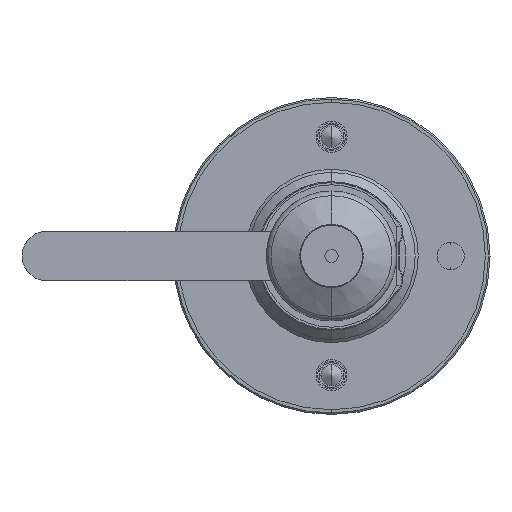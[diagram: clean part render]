
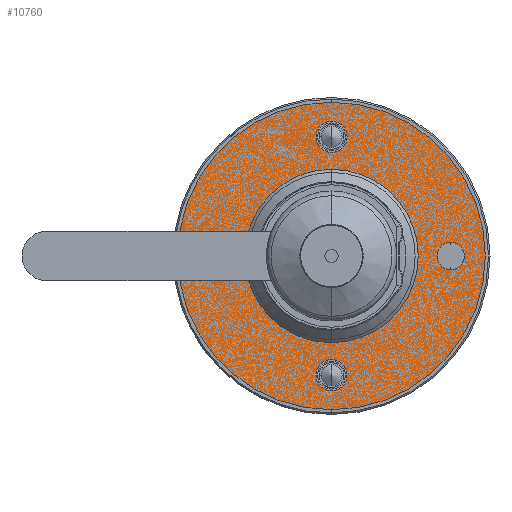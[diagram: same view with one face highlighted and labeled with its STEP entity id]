
A CAD part, front view. The second image highlights one B-rep face of the part: STEP entity #10760.
In plain terms, the highlighted planar face has unit normal (0, -1, 0) as drawn and (0, 0, -1) by its records, which use the part's own axes.
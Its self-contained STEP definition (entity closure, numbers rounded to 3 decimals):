
#244 = CIRCLE ( 'NONE', #2567, 22. ) ;
#373 = CARTESIAN_POINT ( 'NONE',  ( -33.5, 0., 0. ) ) ;
#460 = EDGE_LOOP ( 'NONE', ( #22330, #10990 ) ) ;
#700 = CIRCLE ( 'NONE', #12326, 4.4 ) ;
#723 = CIRCLE ( 'NONE', #23505, 22. ) ;
#773 = EDGE_CURVE ( 'NONE', #14604, #26594, #15848, .T. ) ;
#799 = VERTEX_POINT ( 'NONE', #27245 ) ;
#1004 = CARTESIAN_POINT ( 'NONE',  ( 0., 0., 0. ) ) ;
#1762 = FACE_BOUND ( 'NONE', #20261, .T. ) ;
#2297 = DIRECTION ( 'NONE',  ( 0., 0., -1. ) ) ;
#2327 = DIRECTION ( 'NONE',  ( -1., 0., 0. ) ) ;
#2546 = CARTESIAN_POINT ( 'NONE',  ( -38.5, 0., 0. ) ) ;
#2565 = CIRCLE ( 'NONE', #19277, 49.675 ) ;
#2567 = AXIS2_PLACEMENT_3D ( 'NONE', #27295, #27427, #10090 ) ;
#2695 = DIRECTION ( 'NONE',  ( 0., 0., 1. ) ) ;
#2839 = AXIS2_PLACEMENT_3D ( 'NONE', #18665, #24941, #4997 ) ;
#2935 = AXIS2_PLACEMENT_3D ( 'NONE', #20084, #21595, #15751 ) ;
#2977 = ORIENTED_EDGE ( 'NONE', *, *, #28804, .T. ) ;
#3610 = DIRECTION ( 'NONE',  ( 0., 0., 1. ) ) ;
#3730 = CIRCLE ( 'NONE', #2839, 5. ) ;
#3941 = PLANE ( 'NONE',  #6050 ) ;
#3959 = VERTEX_POINT ( 'NONE', #373 ) ;
#4348 = CARTESIAN_POINT ( 'NONE',  ( 0., 0., 0. ) ) ;
#4682 = VERTEX_POINT ( 'NONE', #25383 ) ;
#4707 = EDGE_CURVE ( 'NONE', #26594, #14604, #700, .T. ) ;
#4891 = EDGE_CURVE ( 'NONE', #16952, #22107, #7208, .T. ) ;
#4997 = DIRECTION ( 'NONE',  ( -1., 0., 0. ) ) ;
#5974 = CARTESIAN_POINT ( 'NONE',  ( 22., 0., 0. ) ) ;
#6050 = AXIS2_PLACEMENT_3D ( 'NONE', #5974, #10798, #12687 ) ;
#6088 = ORIENTED_EDGE ( 'NONE', *, *, #21394, .T. ) ;
#6501 = AXIS2_PLACEMENT_3D ( 'NONE', #6845, #22721, #2327 ) ;
#6845 = CARTESIAN_POINT ( 'NONE',  ( 0., -38.5, 0. ) ) ;
#7208 = CIRCLE ( 'NONE', #28595, 5. ) ;
#7472 = CARTESIAN_POINT ( 'NONE',  ( 0., -38.5, 0. ) ) ;
#7502 = VERTEX_POINT ( 'NONE', #24757 ) ;
#8020 = CARTESIAN_POINT ( 'NONE',  ( 49.675, 0., 0. ) ) ;
#8378 = EDGE_CURVE ( 'NONE', #7502, #15389, #2565, .T. ) ;
#8994 = CIRCLE ( 'NONE', #20615, 4.4 ) ;
#9985 = VERTEX_POINT ( 'NONE', #20416 ) ;
#10090 = DIRECTION ( 'NONE',  ( 1., 0., 0. ) ) ;
#10362 = EDGE_CURVE ( 'NONE', #22240, #799, #14314, .T. ) ;
#10427 = AXIS2_PLACEMENT_3D ( 'NONE', #2546, #2695, #20304 ) ;
#10759 = EDGE_CURVE ( 'NONE', #3959, #17568, #3730, .T. ) ;
#10760 = ADVANCED_FACE ( 'NONE', ( #23163, #13893, #20566, #17186, #21840, #1762 ), #3941, .T. ) ;
#10798 = DIRECTION ( 'NONE',  ( 0., 0., -1. ) ) ;
#10990 = ORIENTED_EDGE ( 'NONE', *, *, #4891, .T. ) ;
#11013 = CARTESIAN_POINT ( 'NONE',  ( 0., 38.5, 0. ) ) ;
#11153 = DIRECTION ( 'NONE',  ( -1., 0., 0. ) ) ;
#11579 = DIRECTION ( 'NONE',  ( 0., 0., -1. ) ) ;
#12326 = AXIS2_PLACEMENT_3D ( 'NONE', #7472, #25234, #27568 ) ;
#12502 = DIRECTION ( 'NONE',  ( -1., 0., 0. ) ) ;
#12687 = DIRECTION ( 'NONE',  ( -1., 0., 0. ) ) ;
#13243 = DIRECTION ( 'NONE',  ( -1., 0., 0. ) ) ;
#13366 = ORIENTED_EDGE ( 'NONE', *, *, #16368, .T. ) ;
#13436 = EDGE_LOOP ( 'NONE', ( #28076, #18954 ) ) ;
#13654 = ORIENTED_EDGE ( 'NONE', *, *, #26340, .T. ) ;
#13773 = DIRECTION ( 'NONE',  ( -1., 0., 0. ) ) ;
#13793 = DIRECTION ( 'NONE',  ( 0., 0., 1. ) ) ;
#13893 = FACE_BOUND ( 'NONE', #13436, .T. ) ;
#14314 = CIRCLE ( 'NONE', #21244, 4.4 ) ;
#14604 = VERTEX_POINT ( 'NONE', #15262 ) ;
#15196 = EDGE_LOOP ( 'NONE', ( #24932, #13366 ) ) ;
#15230 = CARTESIAN_POINT ( 'NONE',  ( -43.5, 0., 0. ) ) ;
#15262 = CARTESIAN_POINT ( 'NONE',  ( 4.4, -38.5, 0. ) ) ;
#15389 = VERTEX_POINT ( 'NONE', #8020 ) ;
#15491 = CIRCLE ( 'NONE', #23841, 49.675 ) ;
#15751 = DIRECTION ( 'NONE',  ( -1., 0., 0. ) ) ;
#15848 = CIRCLE ( 'NONE', #6501, 4.4 ) ;
#15976 = EDGE_CURVE ( 'NONE', #22107, #16952, #23363, .T. ) ;
#16011 = CIRCLE ( 'NONE', #10427, 5. ) ;
#16122 = CARTESIAN_POINT ( 'NONE',  ( 0., 38.5, 0. ) ) ;
#16368 = EDGE_CURVE ( 'NONE', #799, #22240, #8994, .T. ) ;
#16456 = CARTESIAN_POINT ( 'NONE',  ( 38.5, 0., 0. ) ) ;
#16952 = VERTEX_POINT ( 'NONE', #20823 ) ;
#17186 = FACE_BOUND ( 'NONE', #460, .T. ) ;
#17235 = EDGE_LOOP ( 'NONE', ( #6088, #17999 ) ) ;
#17568 = VERTEX_POINT ( 'NONE', #15230 ) ;
#17842 = DIRECTION ( 'NONE',  ( -1., 0., 0. ) ) ;
#17999 = ORIENTED_EDGE ( 'NONE', *, *, #8378, .T. ) ;
#18550 = CARTESIAN_POINT ( 'NONE',  ( 0., 0., 0. ) ) ;
#18665 = CARTESIAN_POINT ( 'NONE',  ( -38.5, 0., 0. ) ) ;
#18954 = ORIENTED_EDGE ( 'NONE', *, *, #773, .T. ) ;
#19277 = AXIS2_PLACEMENT_3D ( 'NONE', #4348, #2297, #13243 ) ;
#19551 = EDGE_LOOP ( 'NONE', ( #13654, #21488 ) ) ;
#19869 = DIRECTION ( 'NONE',  ( 0., 0., 1. ) ) ;
#20084 = CARTESIAN_POINT ( 'NONE',  ( 38.5, 0., 0. ) ) ;
#20261 = EDGE_LOOP ( 'NONE', ( #24646, #2977 ) ) ;
#20304 = DIRECTION ( 'NONE',  ( -1., 0., 0. ) ) ;
#20416 = CARTESIAN_POINT ( 'NONE',  ( -22., 0., 0. ) ) ;
#20566 = FACE_BOUND ( 'NONE', #15196, .T. ) ;
#20615 = AXIS2_PLACEMENT_3D ( 'NONE', #11013, #19869, #11153 ) ;
#20823 = CARTESIAN_POINT ( 'NONE',  ( 43.5, 0., 0. ) ) ;
#21244 = AXIS2_PLACEMENT_3D ( 'NONE', #16122, #13793, #17842 ) ;
#21262 = CARTESIAN_POINT ( 'NONE',  ( 33.5, 0., 0. ) ) ;
#21394 = EDGE_CURVE ( 'NONE', #15389, #7502, #15491, .T. ) ;
#21488 = ORIENTED_EDGE ( 'NONE', *, *, #10759, .T. ) ;
#21595 = DIRECTION ( 'NONE',  ( 0., 0., 1. ) ) ;
#21840 = FACE_BOUND ( 'NONE', #19551, .T. ) ;
#22107 = VERTEX_POINT ( 'NONE', #21262 ) ;
#22240 = VERTEX_POINT ( 'NONE', #26207 ) ;
#22330 = ORIENTED_EDGE ( 'NONE', *, *, #15976, .T. ) ;
#22721 = DIRECTION ( 'NONE',  ( 0., 0., 1. ) ) ;
#23163 = FACE_OUTER_BOUND ( 'NONE', #17235, .T. ) ;
#23363 = CIRCLE ( 'NONE', #2935, 5. ) ;
#23505 = AXIS2_PLACEMENT_3D ( 'NONE', #1004, #27650, #25315 ) ;
#23841 = AXIS2_PLACEMENT_3D ( 'NONE', #18550, #11579, #13773 ) ;
#24646 = ORIENTED_EDGE ( 'NONE', *, *, #27939, .T. ) ;
#24757 = CARTESIAN_POINT ( 'NONE',  ( -49.675, 0., 0. ) ) ;
#24932 = ORIENTED_EDGE ( 'NONE', *, *, #10362, .T. ) ;
#24941 = DIRECTION ( 'NONE',  ( 0., 0., 1. ) ) ;
#25234 = DIRECTION ( 'NONE',  ( 0., 0., 1. ) ) ;
#25315 = DIRECTION ( 'NONE',  ( 1., 0., 0. ) ) ;
#25383 = CARTESIAN_POINT ( 'NONE',  ( 22., 0., 0. ) ) ;
#26207 = CARTESIAN_POINT ( 'NONE',  ( -4.4, 38.5, 0. ) ) ;
#26247 = CARTESIAN_POINT ( 'NONE',  ( -4.4, -38.5, 0. ) ) ;
#26340 = EDGE_CURVE ( 'NONE', #17568, #3959, #16011, .T. ) ;
#26594 = VERTEX_POINT ( 'NONE', #26247 ) ;
#27245 = CARTESIAN_POINT ( 'NONE',  ( 4.4, 38.5, 0. ) ) ;
#27295 = CARTESIAN_POINT ( 'NONE',  ( 0., 0., 0. ) ) ;
#27427 = DIRECTION ( 'NONE',  ( 0., 0., 1. ) ) ;
#27568 = DIRECTION ( 'NONE',  ( -1., 0., 0. ) ) ;
#27650 = DIRECTION ( 'NONE',  ( 0., 0., 1. ) ) ;
#27939 = EDGE_CURVE ( 'NONE', #4682, #9985, #244, .T. ) ;
#28076 = ORIENTED_EDGE ( 'NONE', *, *, #4707, .T. ) ;
#28595 = AXIS2_PLACEMENT_3D ( 'NONE', #16456, #3610, #12502 ) ;
#28804 = EDGE_CURVE ( 'NONE', #9985, #4682, #723, .T. ) ;
